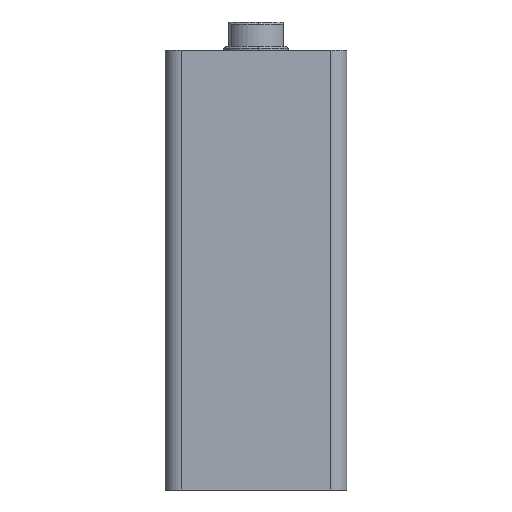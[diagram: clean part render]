
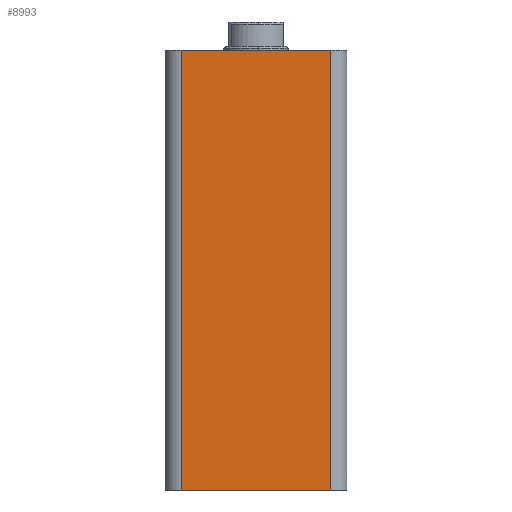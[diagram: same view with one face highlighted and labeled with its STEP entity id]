
A CAD part, front view. The second image highlights one B-rep face of the part: STEP entity #8993.
In plain terms, the highlighted planar face has unit normal (0, -1, 0).
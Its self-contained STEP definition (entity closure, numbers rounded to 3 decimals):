
#602 = VERTEX_POINT ( 'NONE', #8785 ) ;
#617 = CARTESIAN_POINT ( 'NONE',  ( 41., 0., 0. ) ) ;
#920 = VECTOR ( 'NONE', #14750, 1000. ) ;
#1379 = EDGE_CURVE ( 'NONE', #12637, #6970, #6179, .T. ) ;
#3308 = CARTESIAN_POINT ( 'NONE',  ( 41., 0., 109. ) ) ;
#3605 = PLANE ( 'NONE',  #7244 ) ;
#3644 = CARTESIAN_POINT ( 'NONE',  ( 0., 0., 0. ) ) ;
#3693 = ORIENTED_EDGE ( 'NONE', *, *, #3784, .T. ) ;
#3784 = EDGE_CURVE ( 'NONE', #602, #13398, #13012, .T. ) ;
#6179 = LINE ( 'NONE', #6338, #7544 ) ;
#6190 = CARTESIAN_POINT ( 'NONE',  ( 41., 0., 109. ) ) ;
#6234 = DIRECTION ( 'NONE',  ( 0., 1., 0. ) ) ;
#6338 = CARTESIAN_POINT ( 'NONE',  ( 0., 0., 109. ) ) ;
#6877 = LINE ( 'NONE', #3308, #920 ) ;
#6970 = VERTEX_POINT ( 'NONE', #6190 ) ;
#7244 = AXIS2_PLACEMENT_3D ( 'NONE', #10175, #6234, #10087 ) ;
#7544 = VECTOR ( 'NONE', #12651, 1000. ) ;
#7739 = EDGE_CURVE ( 'NONE', #12637, #602, #14084, .T. ) ;
#8001 = ORIENTED_EDGE ( 'NONE', *, *, #7739, .T. ) ;
#8598 = VECTOR ( 'NONE', #14135, 1000. ) ;
#8785 = CARTESIAN_POINT ( 'NONE',  ( 4., 0., 0. ) ) ;
#8993 = ADVANCED_FACE ( 'NONE', ( #11599 ), #3605, .F. ) ;
#9754 = ORIENTED_EDGE ( 'NONE', *, *, #15715, .T. ) ;
#10087 = DIRECTION ( 'NONE',  ( 0., 0., 1. ) ) ;
#10175 = CARTESIAN_POINT ( 'NONE',  ( 0., 0., 109. ) ) ;
#10331 = DIRECTION ( 'NONE',  ( 0., 0., -1. ) ) ;
#11599 = FACE_OUTER_BOUND ( 'NONE', #13968, .T. ) ;
#11983 = CARTESIAN_POINT ( 'NONE',  ( 4., 0., 109. ) ) ;
#12637 = VERTEX_POINT ( 'NONE', #11983 ) ;
#12651 = DIRECTION ( 'NONE',  ( 1., 0., 0. ) ) ;
#13012 = LINE ( 'NONE', #3644, #8598 ) ;
#13398 = VERTEX_POINT ( 'NONE', #617 ) ;
#13401 = ORIENTED_EDGE ( 'NONE', *, *, #1379, .F. ) ;
#13968 = EDGE_LOOP ( 'NONE', ( #3693, #9754, #13401, #8001 ) ) ;
#14084 = LINE ( 'NONE', #15537, #16786 ) ;
#14135 = DIRECTION ( 'NONE',  ( 1., 0., 0. ) ) ;
#14750 = DIRECTION ( 'NONE',  ( 0., 0., 1. ) ) ;
#15537 = CARTESIAN_POINT ( 'NONE',  ( 4., 0., 109. ) ) ;
#15715 = EDGE_CURVE ( 'NONE', #13398, #6970, #6877, .T. ) ;
#16786 = VECTOR ( 'NONE', #10331, 1000. ) ;
